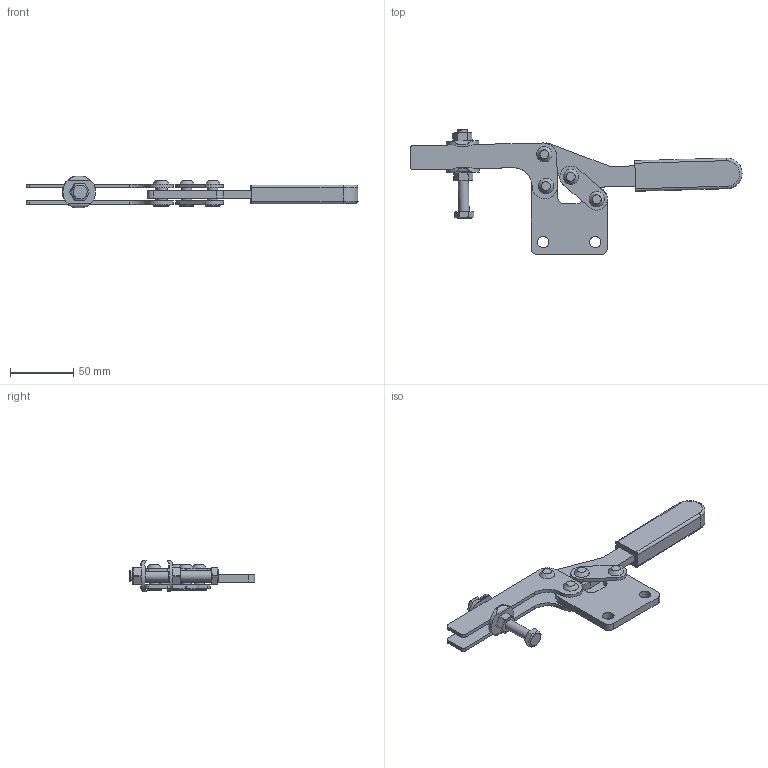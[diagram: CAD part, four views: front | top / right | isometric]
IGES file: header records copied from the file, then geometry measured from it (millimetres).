
Global section: file name: No.43B; native system: Autodesk Inventor 2020; preprocessor: unknown; author: y-takahashi; date: 20211203.100054; units: millimetre
Bounding box: 261.61 x 98.87 x 24.6 mm (x, y, z)
Volume: 84475 mm3; surface area: 49021.2 mm2
Topology: 16 solids, 16 shells, 215 faces, 518 edges, 349 vertices
Faces by surface type: bspline 215
